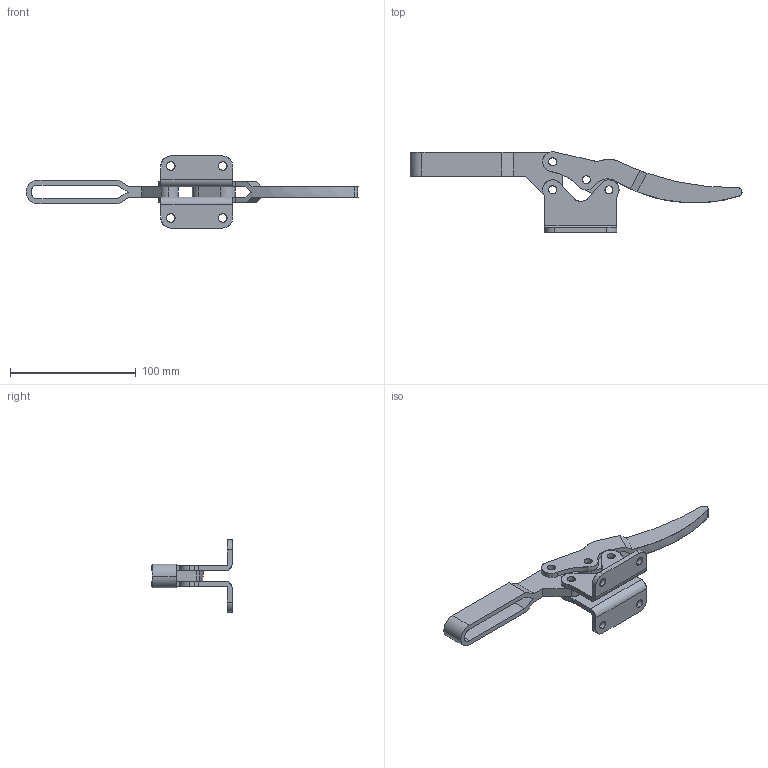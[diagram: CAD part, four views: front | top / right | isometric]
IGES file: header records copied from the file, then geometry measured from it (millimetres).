
Start section: Comment
Global section: file name: 20235.igs; native system:  By Spatial Corp.; preprocessor: XPlus PS/IGES 3.0; author: Author; organization: Title; date: 20050217.080419; units: inch
Bounding box: 263.59 x 63.9 x 57.2 mm (x, y, z)
Surface area: 38054.6 mm2 (no closed solid volume)
Topology: 0 solids, 0 shells, 128 faces, 716 edges, 716 vertices
Faces by surface type: revolution 78, extrusion 50
